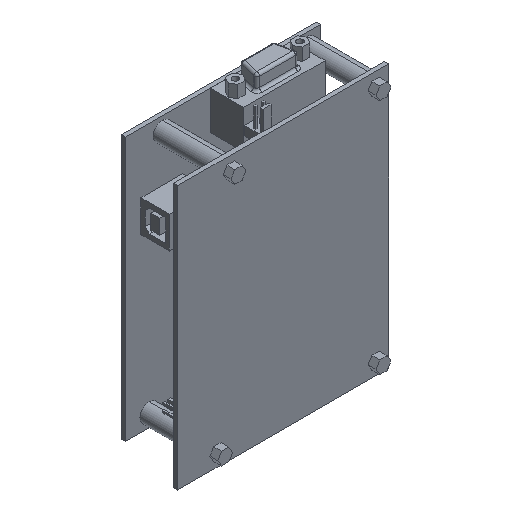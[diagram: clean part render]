
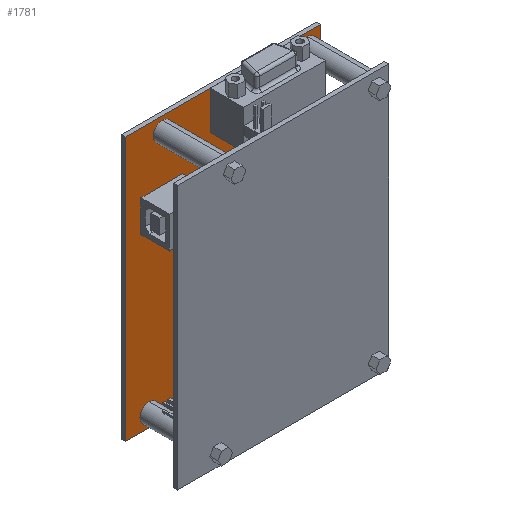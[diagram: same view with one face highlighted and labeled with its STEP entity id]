
A CAD part, isometric view. The second image highlights one B-rep face of the part: STEP entity #1781.
In plain terms, the highlighted planar face has unit normal (0, -1, 0).
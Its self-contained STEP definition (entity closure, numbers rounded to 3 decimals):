
#113 = EDGE_CURVE ( 'NONE', #165, #884, #1889, .T. ) ;
#130 = EDGE_CURVE ( 'NONE', #1839, #165, #1745, .T. ) ;
#148 = CARTESIAN_POINT ( 'NONE',  ( 40., 25.9, -50. ) ) ;
#163 = CARTESIAN_POINT ( 'NONE',  ( 35., 25.9, -48.5 ) ) ;
#165 = VERTEX_POINT ( 'NONE', #1737 ) ;
#224 = DIRECTION ( 'NONE',  ( 0., 1., 0. ) ) ;
#256 = DIRECTION ( 'NONE',  ( 0., 1., 0. ) ) ;
#363 = CIRCLE ( 'NONE', #1319, 3.5 ) ;
#373 = FACE_BOUND ( 'NONE', #4630, .T. ) ;
#379 = EDGE_CURVE ( 'NONE', #2102, #815, #2440, .T. ) ;
#383 = CIRCLE ( 'NONE', #1735, 3.5 ) ;
#402 = CARTESIAN_POINT ( 'NONE',  ( -34., 25.9, 50. ) ) ;
#429 = EDGE_CURVE ( 'NONE', #4344, #1839, #752, .T. ) ;
#651 = CARTESIAN_POINT ( 'NONE',  ( 35., 25.9, 45. ) ) ;
#743 = EDGE_LOOP ( 'NONE', ( #5542, #2958 ) ) ;
#752 = LINE ( 'NONE', #2595, #1604 ) ;
#794 = DIRECTION ( 'NONE',  ( 0., 0., 1. ) ) ;
#797 = ORIENTED_EDGE ( 'NONE', *, *, #5011, .T. ) ;
#815 = VERTEX_POINT ( 'NONE', #2252 ) ;
#822 = CARTESIAN_POINT ( 'NONE',  ( 35., 25.9, -45. ) ) ;
#848 = DIRECTION ( 'NONE',  ( 0., 0., 1. ) ) ;
#884 = VERTEX_POINT ( 'NONE', #5688 ) ;
#925 = CARTESIAN_POINT ( 'NONE',  ( -20., 25.9, 41.5 ) ) ;
#948 = ORIENTED_EDGE ( 'NONE', *, *, #2963, .T. ) ;
#989 = CARTESIAN_POINT ( 'NONE',  ( -34., 25.9, 50. ) ) ;
#1011 = FACE_BOUND ( 'NONE', #3286, .T. ) ;
#1150 = CARTESIAN_POINT ( 'NONE',  ( 35., 25.9, -45. ) ) ;
#1187 = CARTESIAN_POINT ( 'NONE',  ( -25., 25.9, -45. ) ) ;
#1306 = ORIENTED_EDGE ( 'NONE', *, *, #3187, .F. ) ;
#1319 = AXIS2_PLACEMENT_3D ( 'NONE', #5849, #1842, #3584 ) ;
#1437 = FACE_OUTER_BOUND ( 'NONE', #2665, .T. ) ;
#1604 = VECTOR ( 'NONE', #794, 1000. ) ;
#1735 = AXIS2_PLACEMENT_3D ( 'NONE', #1150, #256, #4298 ) ;
#1737 = CARTESIAN_POINT ( 'NONE',  ( 40., 25.9, 50. ) ) ;
#1745 = LINE ( 'NONE', #989, #2788 ) ;
#1781 = ADVANCED_FACE ( 'NONE', ( #2572, #373, #1011, #5525, #1437 ), #2634, .F. ) ;
#1787 = EDGE_CURVE ( 'NONE', #3562, #2860, #2769, .T. ) ;
#1836 = AXIS2_PLACEMENT_3D ( 'NONE', #3392, #2013, #2460 ) ;
#1839 = VERTEX_POINT ( 'NONE', #402 ) ;
#1842 = DIRECTION ( 'NONE',  ( 0., 1., 0. ) ) ;
#1889 = LINE ( 'NONE', #148, #4135 ) ;
#2013 = DIRECTION ( 'NONE',  ( 0., 1., 0. ) ) ;
#2024 = LINE ( 'NONE', #2558, #4699 ) ;
#2071 = DIRECTION ( 'NONE',  ( 0., 1., 0. ) ) ;
#2102 = VERTEX_POINT ( 'NONE', #4233 ) ;
#2130 = CARTESIAN_POINT ( 'NONE',  ( -25., 25.9, -41.5 ) ) ;
#2232 = CARTESIAN_POINT ( 'NONE',  ( -34., 25.9, -50. ) ) ;
#2243 = CIRCLE ( 'NONE', #1836, 3.5 ) ;
#2252 = CARTESIAN_POINT ( 'NONE',  ( 35., 25.9, 48.5 ) ) ;
#2330 = ORIENTED_EDGE ( 'NONE', *, *, #2662, .T. ) ;
#2433 = AXIS2_PLACEMENT_3D ( 'NONE', #1187, #224, #4327 ) ;
#2440 = CIRCLE ( 'NONE', #3828, 3.5 ) ;
#2460 = DIRECTION ( 'NONE',  ( 0., 0., 1. ) ) ;
#2558 = CARTESIAN_POINT ( 'NONE',  ( -34., 25.9, -50. ) ) ;
#2572 = FACE_BOUND ( 'NONE', #743, .T. ) ;
#2595 = CARTESIAN_POINT ( 'NONE',  ( -34., 25.9, -50. ) ) ;
#2634 = PLANE ( 'NONE',  #5580 ) ;
#2645 = VERTEX_POINT ( 'NONE', #925 ) ;
#2662 = EDGE_CURVE ( 'NONE', #815, #2102, #363, .T. ) ;
#2665 = EDGE_LOOP ( 'NONE', ( #4563, #1306, #2763, #4686 ) ) ;
#2681 = DIRECTION ( 'NONE',  ( 0., 1., 0. ) ) ;
#2687 = CARTESIAN_POINT ( 'NONE',  ( -25., 25.9, -48.5 ) ) ;
#2693 = DIRECTION ( 'NONE',  ( 0., 0., 1. ) ) ;
#2763 = ORIENTED_EDGE ( 'NONE', *, *, #113, .F. ) ;
#2769 = CIRCLE ( 'NONE', #4070, 3.5 ) ;
#2788 = VECTOR ( 'NONE', #4140, 1000. ) ;
#2860 = VERTEX_POINT ( 'NONE', #4139 ) ;
#2958 = ORIENTED_EDGE ( 'NONE', *, *, #3062, .T. ) ;
#2963 = EDGE_CURVE ( 'NONE', #2645, #3554, #3959, .T. ) ;
#2969 = DIRECTION ( 'NONE',  ( 0., 0., 1. ) ) ;
#3062 = EDGE_CURVE ( 'NONE', #2860, #3562, #383, .T. ) ;
#3089 = DIRECTION ( 'NONE',  ( 0., 1., 0. ) ) ;
#3187 = EDGE_CURVE ( 'NONE', #884, #4344, #2024, .T. ) ;
#3286 = EDGE_LOOP ( 'NONE', ( #4609, #2330 ) ) ;
#3322 = DIRECTION ( 'NONE',  ( 0., 0., -1. ) ) ;
#3342 = DIRECTION ( 'NONE',  ( 0., 1., 0. ) ) ;
#3392 = CARTESIAN_POINT ( 'NONE',  ( -25., 25.9, -45. ) ) ;
#3394 = CARTESIAN_POINT ( 'NONE',  ( -20., 25.9, 45. ) ) ;
#3441 = AXIS2_PLACEMENT_3D ( 'NONE', #3394, #4738, #4752 ) ;
#3451 = CIRCLE ( 'NONE', #2433, 3.5 ) ;
#3504 = ORIENTED_EDGE ( 'NONE', *, *, #5599, .T. ) ;
#3532 = CARTESIAN_POINT ( 'NONE',  ( 0., 25.9, 0. ) ) ;
#3554 = VERTEX_POINT ( 'NONE', #3774 ) ;
#3562 = VERTEX_POINT ( 'NONE', #163 ) ;
#3581 = EDGE_LOOP ( 'NONE', ( #948, #3504 ) ) ;
#3584 = DIRECTION ( 'NONE',  ( 0., 0., 1. ) ) ;
#3774 = CARTESIAN_POINT ( 'NONE',  ( -20., 25.9, 48.5 ) ) ;
#3828 = AXIS2_PLACEMENT_3D ( 'NONE', #651, #2071, #2969 ) ;
#3959 = CIRCLE ( 'NONE', #3441, 3.5 ) ;
#4038 = VERTEX_POINT ( 'NONE', #2130 ) ;
#4070 = AXIS2_PLACEMENT_3D ( 'NONE', #822, #2681, #848 ) ;
#4135 = VECTOR ( 'NONE', #3322, 1000. ) ;
#4139 = CARTESIAN_POINT ( 'NONE',  ( 35., 25.9, -41.5 ) ) ;
#4140 = DIRECTION ( 'NONE',  ( 1., 0., 0. ) ) ;
#4233 = CARTESIAN_POINT ( 'NONE',  ( 35., 25.9, 41.5 ) ) ;
#4298 = DIRECTION ( 'NONE',  ( 0., 0., 1. ) ) ;
#4314 = DIRECTION ( 'NONE',  ( -1., 0., 0. ) ) ;
#4327 = DIRECTION ( 'NONE',  ( 0., 0., 1. ) ) ;
#4328 = VERTEX_POINT ( 'NONE', #2687 ) ;
#4344 = VERTEX_POINT ( 'NONE', #2232 ) ;
#4563 = ORIENTED_EDGE ( 'NONE', *, *, #429, .F. ) ;
#4609 = ORIENTED_EDGE ( 'NONE', *, *, #379, .T. ) ;
#4630 = EDGE_LOOP ( 'NONE', ( #5267, #797 ) ) ;
#4686 = ORIENTED_EDGE ( 'NONE', *, *, #130, .F. ) ;
#4699 = VECTOR ( 'NONE', #4314, 1000. ) ;
#4738 = DIRECTION ( 'NONE',  ( 0., 1., 0. ) ) ;
#4752 = DIRECTION ( 'NONE',  ( 0., 0., 1. ) ) ;
#5006 = EDGE_CURVE ( 'NONE', #4328, #4038, #2243, .T. ) ;
#5011 = EDGE_CURVE ( 'NONE', #4038, #4328, #3451, .T. ) ;
#5119 = CARTESIAN_POINT ( 'NONE',  ( -20., 25.9, 45. ) ) ;
#5133 = CIRCLE ( 'NONE', #5447, 3.5 ) ;
#5174 = DIRECTION ( 'NONE',  ( 0., 0., 1. ) ) ;
#5267 = ORIENTED_EDGE ( 'NONE', *, *, #5006, .T. ) ;
#5447 = AXIS2_PLACEMENT_3D ( 'NONE', #5119, #3342, #5174 ) ;
#5525 = FACE_BOUND ( 'NONE', #3581, .T. ) ;
#5542 = ORIENTED_EDGE ( 'NONE', *, *, #1787, .T. ) ;
#5580 = AXIS2_PLACEMENT_3D ( 'NONE', #3532, #3089, #2693 ) ;
#5599 = EDGE_CURVE ( 'NONE', #3554, #2645, #5133, .T. ) ;
#5688 = CARTESIAN_POINT ( 'NONE',  ( 40., 25.9, -50. ) ) ;
#5849 = CARTESIAN_POINT ( 'NONE',  ( 35., 25.9, 45. ) ) ;
